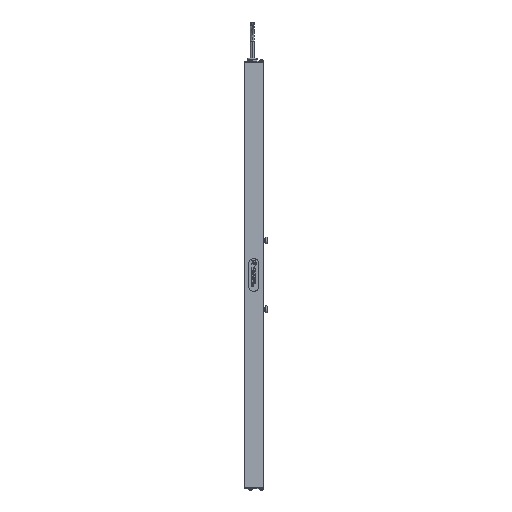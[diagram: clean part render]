
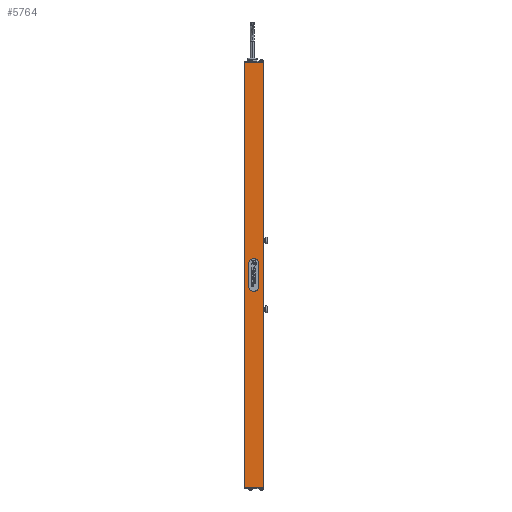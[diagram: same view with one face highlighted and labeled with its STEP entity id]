
A CAD part, left-side view. The second image highlights one B-rep face of the part: STEP entity #5764.
In plain terms, the highlighted planar face has unit normal (-1, 0, 0).
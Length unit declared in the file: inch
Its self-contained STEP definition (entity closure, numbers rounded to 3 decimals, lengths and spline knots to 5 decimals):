
#819 = EDGE_CURVE ( 'NONE', #2479, #14167, #20989, .T. ) ;
#1706 = DIRECTION ( 'NONE',  ( 0., 0., 1. ) ) ;
#2220 = ORIENTED_EDGE ( 'NONE', *, *, #10226, .T. ) ;
#2479 = VERTEX_POINT ( 'NONE', #14141 ) ;
#3055 = DIRECTION ( 'NONE',  ( 0., 0., -1. ) ) ;
#3340 = ORIENTED_EDGE ( 'NONE', *, *, #18759, .T. ) ;
#4184 = VECTOR ( 'NONE', #8195, 39.37008 ) ;
#4444 = CARTESIAN_POINT ( 'NONE',  ( -0.665, 0., 12.36 ) ) ;
#4590 = LINE ( 'NONE', #23459, #4184 ) ;
#5764 = ADVANCED_FACE ( 'NONE', ( #26311 ), #19812, .F. ) ;
#6774 = LINE ( 'NONE', #4444, #26186 ) ;
#8195 = DIRECTION ( 'NONE',  ( 0., -1., 0. ) ) ;
#8973 = CARTESIAN_POINT ( 'NONE',  ( -0.665, 0.015, 12.36 ) ) ;
#9051 = EDGE_CURVE ( 'NONE', #2479, #24343, #6774, .T. ) ;
#9060 = CARTESIAN_POINT ( 'NONE',  ( -0.665, 0.015, -12.36 ) ) ;
#10226 = EDGE_CURVE ( 'NONE', #24692, #24343, #18184, .T. ) ;
#12363 = CARTESIAN_POINT ( 'NONE',  ( -0.665, 0., 12.36 ) ) ;
#12401 = DIRECTION ( 'NONE',  ( 0., -1., 0. ) ) ;
#14141 = CARTESIAN_POINT ( 'NONE',  ( -0.665, 1.105, 12.36 ) ) ;
#14167 = VERTEX_POINT ( 'NONE', #32548 ) ;
#14538 = AXIS2_PLACEMENT_3D ( 'NONE', #12363, #29934, #14806 ) ;
#14806 = DIRECTION ( 'NONE',  ( 0., 0., -1. ) ) ;
#18184 = LINE ( 'NONE', #8973, #21699 ) ;
#18759 = EDGE_CURVE ( 'NONE', #14167, #24692, #4590, .T. ) ;
#19612 = ORIENTED_EDGE ( 'NONE', *, *, #819, .T. ) ;
#19812 = PLANE ( 'NONE',  #14538 ) ;
#20989 = LINE ( 'NONE', #23297, #28477 ) ;
#21699 = VECTOR ( 'NONE', #1706, 39.37008 ) ;
#23297 = CARTESIAN_POINT ( 'NONE',  ( -0.665, 1.105, 12.36 ) ) ;
#23459 = CARTESIAN_POINT ( 'NONE',  ( -0.665, 0., -12.36 ) ) ;
#24343 = VERTEX_POINT ( 'NONE', #24491 ) ;
#24491 = CARTESIAN_POINT ( 'NONE',  ( -0.665, 0.015, 12.36 ) ) ;
#24692 = VERTEX_POINT ( 'NONE', #9060 ) ;
#26186 = VECTOR ( 'NONE', #12401, 39.37008 ) ;
#26311 = FACE_OUTER_BOUND ( 'NONE', #29509, .T. ) ;
#28015 = ORIENTED_EDGE ( 'NONE', *, *, #9051, .F. ) ;
#28477 = VECTOR ( 'NONE', #3055, 39.37008 ) ;
#29509 = EDGE_LOOP ( 'NONE', ( #28015, #19612, #3340, #2220 ) ) ;
#29934 = DIRECTION ( 'NONE',  ( 1., 0., 0. ) ) ;
#32548 = CARTESIAN_POINT ( 'NONE',  ( -0.665, 1.105, -12.36 ) ) ;
